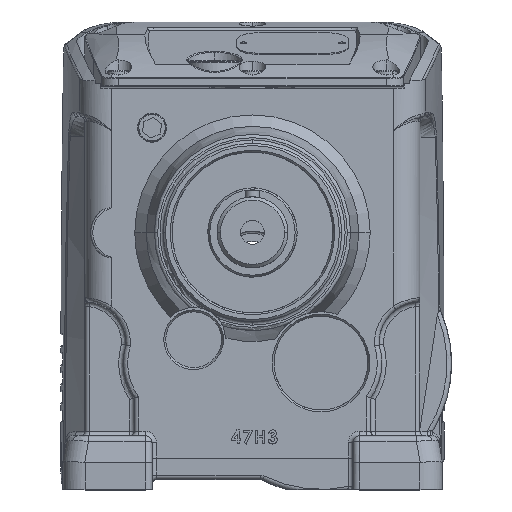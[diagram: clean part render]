
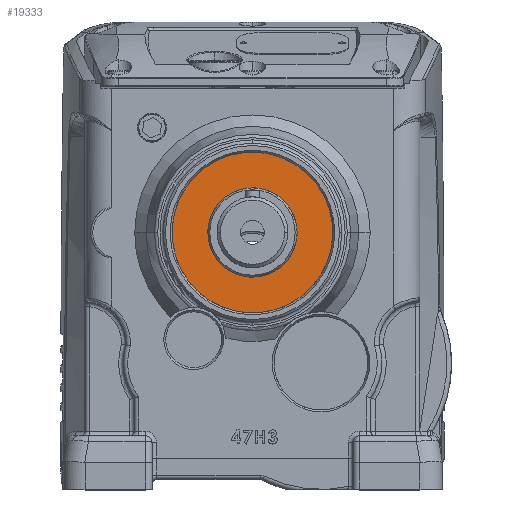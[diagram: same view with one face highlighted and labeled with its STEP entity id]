
A CAD part, top view. The second image highlights one B-rep face of the part: STEP entity #19333.
In plain terms, the highlighted planar face has unit normal (0, 0, 1).
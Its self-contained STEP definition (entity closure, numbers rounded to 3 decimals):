
#4028 = CARTESIAN_POINT ( 'NONE',  ( -14.446, 77.525, 31. ) ) ;
#10429 = CARTESIAN_POINT ( 'NONE',  ( 0., 110.5, 31. ) ) ;
#10430 = DIRECTION ( 'NONE',  ( 0., 0., 1. ) ) ;
#10431 = DIRECTION ( 'NONE',  ( -0.401, -0.916, 0. ) ) ;
#10439 = CARTESIAN_POINT ( 'NONE',  ( 0., 110.5, 31. ) ) ;
#10440 = DIRECTION ( 'NONE',  ( 0., 0., 1. ) ) ;
#10441 = DIRECTION ( 'NONE',  ( -0.401, -0.916, 0. ) ) ;
#10560 = CARTESIAN_POINT ( 'NONE',  ( 0., 110.5, 31. ) ) ;
#10561 = DIRECTION ( 'NONE',  ( 0., 0., 1. ) ) ;
#10562 = DIRECTION ( 'NONE',  ( -0.401, -0.916, 0. ) ) ;
#10578 = CARTESIAN_POINT ( 'NONE',  ( 0., 110.5, 31. ) ) ;
#10580 = DIRECTION ( 'NONE',  ( 0., 0., 1. ) ) ;
#10581 = DIRECTION ( 'NONE',  ( -0.401, -0.916, 0. ) ) ;
#16640 = AXIS2_PLACEMENT_3D ( 'NONE', #25127, #25039, #25123 ) ;
#17891 = CARTESIAN_POINT ( 'NONE',  ( 8.025, 128.819, 31. ) ) ;
#17904 = CARTESIAN_POINT ( 'NONE',  ( -8.025, 92.181, 31. ) ) ;
#17970 = CARTESIAN_POINT ( 'NONE',  ( 14.446, 143.475, 31. ) ) ;
#19333 = ADVANCED_FACE ( 'NONE', ( #28942, #29143 ), #25125, .F. ) ;
#25039 = DIRECTION ( 'NONE',  ( 0., 0., -1. ) ) ;
#25123 = DIRECTION ( 'NONE',  ( 0.401, 0.916, 0. ) ) ;
#25125 = PLANE ( 'NONE',  #16640 ) ;
#25127 = CARTESIAN_POINT ( 'NONE',  ( 32.975, 96.054, 31. ) ) ;
#27324 = CIRCLE ( 'NONE', #27325, 20. ) ;
#27325 = AXIS2_PLACEMENT_3D ( 'NONE', #10429, #10430, #10431 ) ;
#27331 = CIRCLE ( 'NONE', #27332, 36. ) ;
#27332 = AXIS2_PLACEMENT_3D ( 'NONE', #10439, #10440, #10441 ) ;
#27336 = CIRCLE ( 'NONE', #27337, 36. ) ;
#27337 = AXIS2_PLACEMENT_3D ( 'NONE', #10560, #10561, #10562 ) ;
#27345 = CIRCLE ( 'NONE', #27346, 20. ) ;
#27346 = AXIS2_PLACEMENT_3D ( 'NONE', #10578, #10580, #10581 ) ;
#28942 = FACE_BOUND ( 'NONE', #29621, .T. ) ;
#29143 = FACE_OUTER_BOUND ( 'NONE', #29944, .T. ) ;
#29621 = EDGE_LOOP ( 'NONE', ( #37055, #37042 ) ) ;
#29944 = EDGE_LOOP ( 'NONE', ( #37050, #37039 ) ) ;
#33907 = VERTEX_POINT ( 'NONE', #4028 ) ;
#37039 = ORIENTED_EDGE ( 'NONE', *, *, #46014, .T. ) ;
#37042 = ORIENTED_EDGE ( 'NONE', *, *, #45815, .F. ) ;
#37050 = ORIENTED_EDGE ( 'NONE', *, *, #46007, .T. ) ;
#37055 = ORIENTED_EDGE ( 'NONE', *, *, #46306, .F. ) ;
#45815 = EDGE_CURVE ( 'NONE', #52651, #52672, #27324, .T. ) ;
#46007 = EDGE_CURVE ( 'NONE', #33907, #52761, #27331, .T. ) ;
#46014 = EDGE_CURVE ( 'NONE', #52761, #33907, #27336, .T. ) ;
#46306 = EDGE_CURVE ( 'NONE', #52672, #52651, #27345, .T. ) ;
#52651 = VERTEX_POINT ( 'NONE', #17891 ) ;
#52672 = VERTEX_POINT ( 'NONE', #17904 ) ;
#52761 = VERTEX_POINT ( 'NONE', #17970 ) ;
